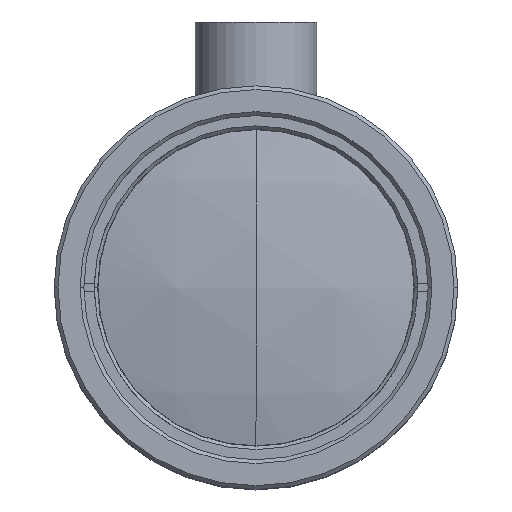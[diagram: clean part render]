
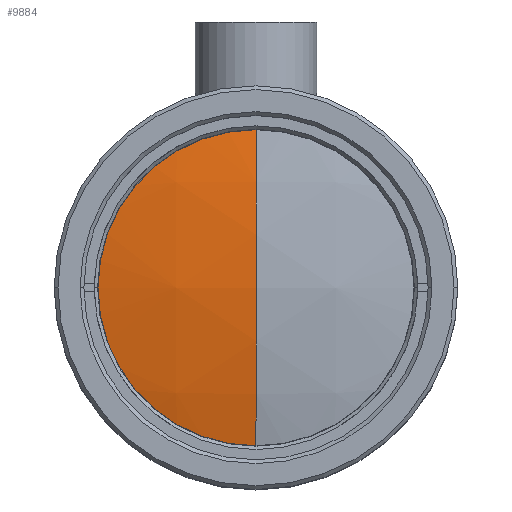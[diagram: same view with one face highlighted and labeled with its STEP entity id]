
A CAD part, top view. The second image highlights one B-rep face of the part: STEP entity #9884.
In plain terms, the highlighted spherical face has radius 92.1 mm.
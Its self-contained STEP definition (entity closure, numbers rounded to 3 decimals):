
#1034 = VERTEX_POINT ( 'NONE', #28165 ) ;
#2164 = EDGE_CURVE ( 'NONE', #2315, #1034, #50710, .T. ) ;
#2315 = VERTEX_POINT ( 'NONE', #49749 ) ;
#2364 = EDGE_LOOP ( 'NONE', ( #51250, #51717, #28484, #22716 ) ) ;
#2855 = CARTESIAN_POINT ( 'NONE',  ( 0., 0., 84.5 ) ) ;
#3331 = DIRECTION ( 'NONE',  ( 1., 0., 0. ) ) ;
#3822 = CIRCLE ( 'NONE', #36274, 92.1 ) ;
#4661 = DIRECTION ( 'NONE',  ( 0., 1., 0. ) ) ;
#7258 = DIRECTION ( 'NONE',  ( 0., 0., 1. ) ) ;
#7552 = CARTESIAN_POINT ( 'NONE',  ( 0., 0., -7.6 ) ) ;
#9884 = ADVANCED_FACE ( 'NONE', ( #25235 ), #32757, .T. ) ;
#10049 = EDGE_CURVE ( 'NONE', #29310, #26073, #3822, .T. ) ;
#10281 = EDGE_CURVE ( 'NONE', #1034, #26073, #41361, .T. ) ;
#12160 = DIRECTION ( 'NONE',  ( -1., 0., 0. ) ) ;
#15385 = CARTESIAN_POINT ( 'NONE',  ( 0., 0., 82.121 ) ) ;
#19842 = CARTESIAN_POINT ( 'NONE',  ( 0., 0., 82.121 ) ) ;
#22716 = ORIENTED_EDGE ( 'NONE', *, *, #29532, .T. ) ;
#24379 = CIRCLE ( 'NONE', #45723, 20.8 ) ;
#24976 = CARTESIAN_POINT ( 'NONE',  ( 0., 0., -7.6 ) ) ;
#25022 = CARTESIAN_POINT ( 'NONE',  ( 0., 20.8, 82.121 ) ) ;
#25168 = CARTESIAN_POINT ( 'NONE',  ( 0., 0., -7.6 ) ) ;
#25235 = FACE_OUTER_BOUND ( 'NONE', #2364, .T. ) ;
#25717 = DIRECTION ( 'NONE',  ( 0., -1., 0. ) ) ;
#25984 = DIRECTION ( 'NONE',  ( -1., 0., 0. ) ) ;
#26073 = VERTEX_POINT ( 'NONE', #2855 ) ;
#27668 = DIRECTION ( 'NONE',  ( 0., 0., 1. ) ) ;
#27671 = AXIS2_PLACEMENT_3D ( 'NONE', #19842, #7258, #48951 ) ;
#28165 = CARTESIAN_POINT ( 'NONE',  ( 0., -20.8, 82.121 ) ) ;
#28484 = ORIENTED_EDGE ( 'NONE', *, *, #10049, .F. ) ;
#29310 = VERTEX_POINT ( 'NONE', #25022 ) ;
#29532 = EDGE_CURVE ( 'NONE', #29310, #2315, #24379, .T. ) ;
#32757 = SPHERICAL_SURFACE ( 'NONE', #37952, 92.1 ) ;
#36186 = DIRECTION ( 'NONE',  ( 1., 0., 0. ) ) ;
#36274 = AXIS2_PLACEMENT_3D ( 'NONE', #7552, #36186, #52744 ) ;
#37952 = AXIS2_PLACEMENT_3D ( 'NONE', #24976, #12160, #4661 ) ;
#39655 = AXIS2_PLACEMENT_3D ( 'NONE', #25168, #25984, #25717 ) ;
#41361 = CIRCLE ( 'NONE', #39655, 92.1 ) ;
#45723 = AXIS2_PLACEMENT_3D ( 'NONE', #15385, #27668, #3331 ) ;
#48951 = DIRECTION ( 'NONE',  ( 1., 0., 0. ) ) ;
#49749 = CARTESIAN_POINT ( 'NONE',  ( -20.8, 0., 82.121 ) ) ;
#50710 = CIRCLE ( 'NONE', #27671, 20.8 ) ;
#51250 = ORIENTED_EDGE ( 'NONE', *, *, #2164, .T. ) ;
#51717 = ORIENTED_EDGE ( 'NONE', *, *, #10281, .T. ) ;
#52744 = DIRECTION ( 'NONE',  ( 0., 0., -1. ) ) ;
